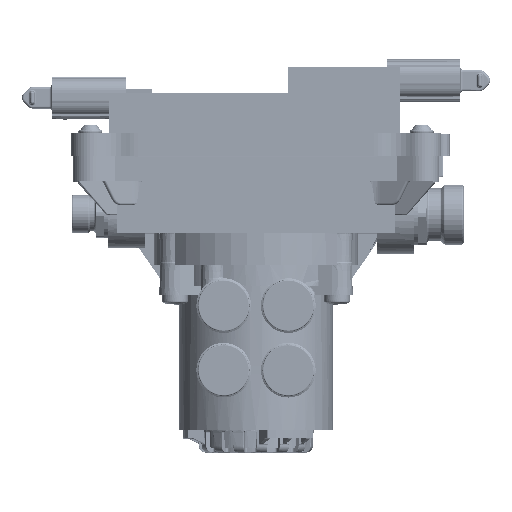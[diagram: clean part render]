
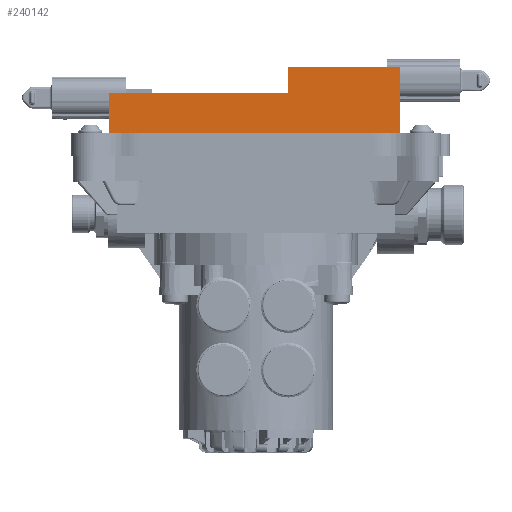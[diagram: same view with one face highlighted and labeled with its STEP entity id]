
A CAD part, top view. The second image highlights one B-rep face of the part: STEP entity #240142.
In plain terms, the highlighted planar face has unit normal (0, 0, 1).
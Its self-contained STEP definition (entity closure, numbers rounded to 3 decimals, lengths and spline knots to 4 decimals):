
#48325=DIRECTION('',(1.,0.,0.));
#48326=VECTOR('',#48325,3.2842);
#48327=CARTESIAN_POINT('',(-2.6902,1.0669,
5.7403));
#48328=LINE('',#48327,#48326);
#48329=DIRECTION('',(0.,1.,0.));
#48330=VECTOR('',#48329,0.4724);
#48331=CARTESIAN_POINT('',(0.594,1.0669,
5.7403));
#48332=LINE('',#48331,#48330);
#48333=DIRECTION('',(1.,0.,0.));
#48334=VECTOR('',#48333,2.0331);
#48335=CARTESIAN_POINT('',(0.594,1.5394,
5.7403));
#48336=LINE('',#48335,#48334);
#48337=DIRECTION('',(0.,1.,0.));
#48338=VECTOR('',#48337,0.7323);
#48339=CARTESIAN_POINT('',(-2.6902,0.3346,
5.7403));
#48340=LINE('',#48339,#48338);
#48436=DIRECTION('',(0.,1.,0.));
#48437=VECTOR('',#48436,1.2047);
#48438=CARTESIAN_POINT('',(2.627,0.3346,
5.7403));
#48439=LINE('',#48438,#48437);
#74246=DIRECTION('',(1.,0.,0.));
#74247=VECTOR('',#74246,5.3173);
#74248=CARTESIAN_POINT('',(-2.6902,0.3346,
5.7403));
#74249=LINE('',#74248,#74247);
#122086=CARTESIAN_POINT('',(0.594,1.0669,
5.7403));
#122087=VERTEX_POINT('',#122086);
#122088=CARTESIAN_POINT('',(-2.6902,1.0669,
5.7403));
#122089=VERTEX_POINT('',#122088);
#133932=CARTESIAN_POINT('',(-2.6902,0.3346,
5.7403));
#133933=VERTEX_POINT('',#133932);
#134534=CARTESIAN_POINT('',(0.594,1.5394,
5.7403));
#134535=VERTEX_POINT('',#134534);
#134536=CARTESIAN_POINT('',(2.627,1.5394,
5.7403));
#134537=VERTEX_POINT('',#134536);
#134538=CARTESIAN_POINT('',(2.627,0.3346,
5.7403));
#134539=VERTEX_POINT('',#134538);
#240125=CARTESIAN_POINT('',(-2.6902,0.3346,
5.7403));
#240126=DIRECTION('',(0.,0.,1.));
#240127=DIRECTION('',(1.,0.,0.));
#240128=AXIS2_PLACEMENT_3D('',#240125,#240126,#240127);
#240129=PLANE('',#240128);
#240130=ORIENTED_EDGE('',*,*,#152215,.T.);
#240132=ORIENTED_EDGE('',*,*,#240131,.T.);
#240134=ORIENTED_EDGE('',*,*,#240133,.T.);
#240136=ORIENTED_EDGE('',*,*,#240135,.F.);
#240138=ORIENTED_EDGE('',*,*,#240137,.F.);
#240139=ORIENTED_EDGE('',*,*,#232888,.T.);
#240140=EDGE_LOOP('',(#240130,#240132,#240134,#240136,#240138,#240139));
#240141=FACE_OUTER_BOUND('',#240140,.F.);
#152215=EDGE_CURVE('',#122089,#122087,#48328,.T.);
#232888=EDGE_CURVE('',#133933,#122089,#48340,.T.);
#240131=EDGE_CURVE('',#122087,#134535,#48332,.T.);
#240133=EDGE_CURVE('',#134535,#134537,#48336,.T.);
#240135=EDGE_CURVE('',#134539,#134537,#48439,.T.);
#240137=EDGE_CURVE('',#133933,#134539,#74249,.T.);
#240142=ADVANCED_FACE('',(#240141),#240129,.T.);
